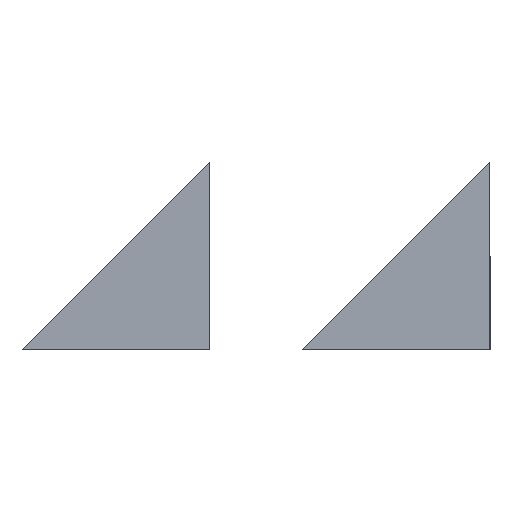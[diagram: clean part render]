
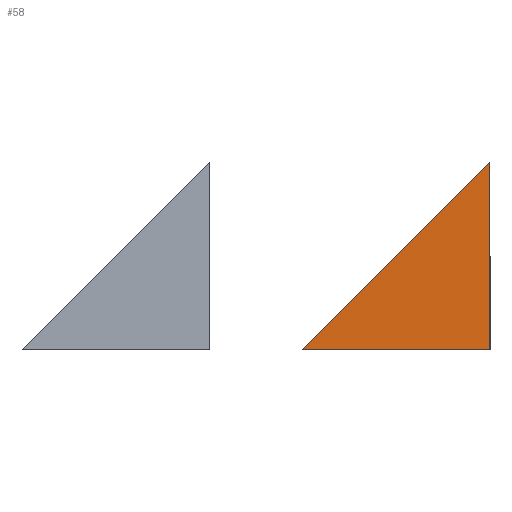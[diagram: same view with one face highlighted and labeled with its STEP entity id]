
A CAD part, left-side view. The second image highlights one B-rep face of the part: STEP entity #58.
In plain terms, the highlighted planar face has unit normal (-1, 0, 0).
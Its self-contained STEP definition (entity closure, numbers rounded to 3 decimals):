
#1=CARTESIAN_POINT('',(0.,0.,0.));
#3=CARTESIAN_POINT('',(0.,10.,0.));
#4=CARTESIAN_POINT('',(0.,0.,10.));
#5=VERTEX_POINT('',#1);
#7=VERTEX_POINT('',#3);
#8=VERTEX_POINT('',#4);
#13=DIRECTION('',(0.,1.,0.));
#14=VECTOR('',#13,1.);
#15=LINE('',#1,#14);
#16=DIRECTION('',(0.,0.,1.));
#17=VECTOR('',#16,1.);
#18=LINE('',#1,#17);
#25=DIRECTION('',(0.,-0.707,0.707));
#26=VECTOR('',#25,1.);
#27=LINE('',#3,#26);
#31=EDGE_CURVE('',#5,#7,#15,.T.);
#32=EDGE_CURVE('',#5,#8,#18,.T.);
#35=EDGE_CURVE('',#7,#8,#27,.T.);
#50=ORIENTED_EDGE('',*,*,#32,.T.);
#51=ORIENTED_EDGE('',*,*,#35,.F.);
#52=ORIENTED_EDGE('',*,*,#31,.F.);
#53=EDGE_LOOP('',(#50,#51,#52));
#54=FACE_OUTER_BOUND('',#53,.T.);
#55=DIRECTION('',(-1.,0.,0.));
#56=AXIS2_PLACEMENT_3D('',#1,#55,#13);
#57=PLANE('',#56);
#58=ADVANCED_FACE('',(#54),#57,.T.);
